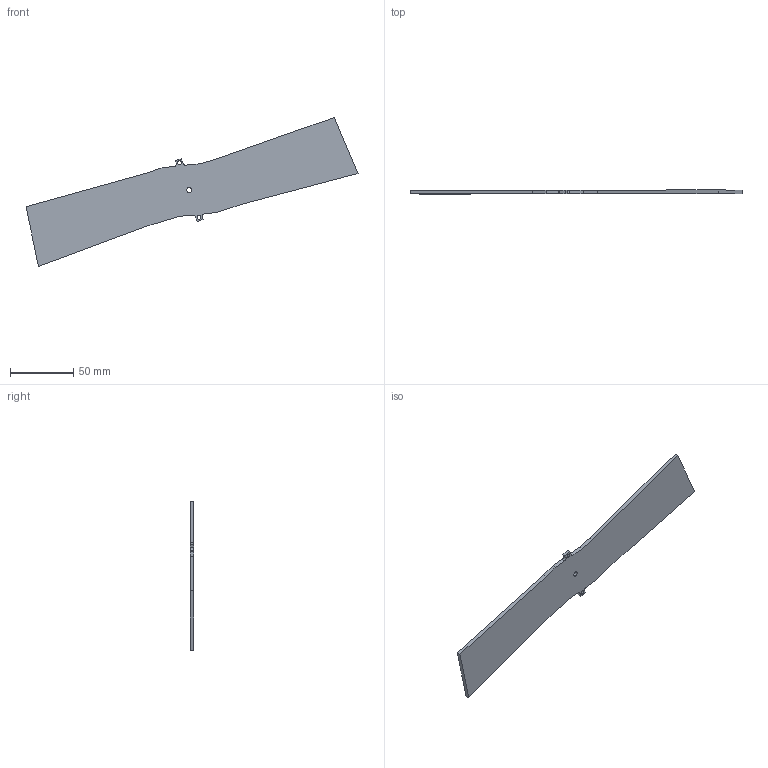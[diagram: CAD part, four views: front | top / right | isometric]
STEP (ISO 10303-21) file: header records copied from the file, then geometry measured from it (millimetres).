
FILE_DESCRIPTION(('CATIA V5 STEP Exchange'),'2;1');
FILE_NAME('E:\WAT\Sprezarka\121_00_00_Tlocznik1\Tlocznik1_stp\Lopatka_plaska+3otw.stp','2022-12-06T12:28:54+00:00',('none'),('none'),'CATIA Version 5 Release 20 SP 4 (IN-10)','CATIA V5 STEP AP214','none');
FILE_SCHEMA(('AUTOMOTIVE_DESIGN { 1 0 10303 214 1 1 1 1 }'));
Length unit declared in the file: millimetre
Products named in the file (1): Lopatka_plaska+3otw
Bounding box: 261.86 x 3 x 117.47 mm (x, y, z)
Volume: 33348.7 mm3; surface area: 24213.5 mm2
Topology: 1 solids, 1 shells, 34 faces, 100 edges, 71 vertices
Faces by surface type: plane 22, cylinder 12
Entity records: 1421 total; most frequent: CARTESIAN_POINT 264, ORIENTED_EDGE 200, DIRECTION 158, EDGE_CURVE 100, VECTOR 72, LINE 72, VERTEX_POINT 68, AXIS2_PLACEMENT_3D 55
